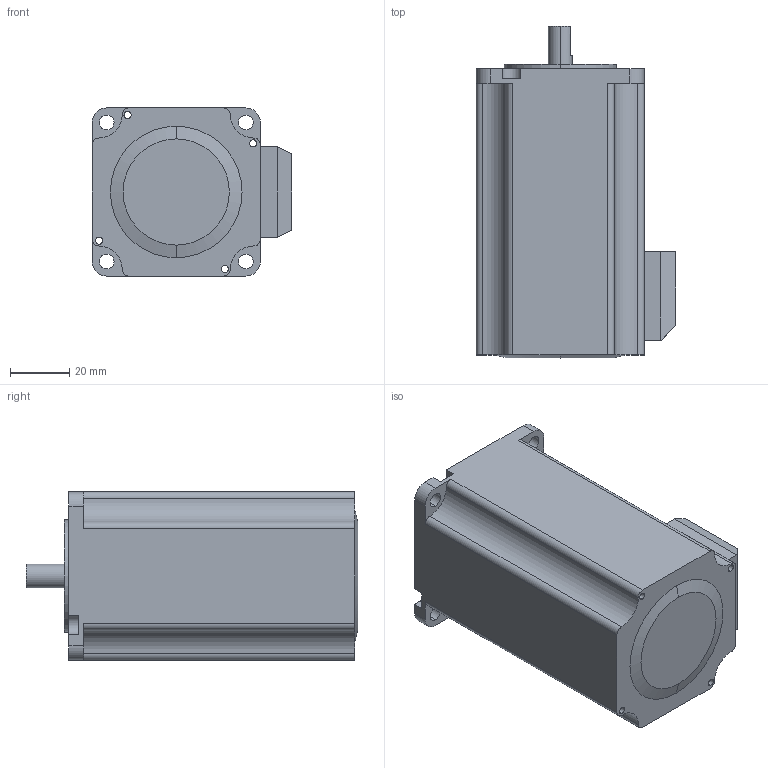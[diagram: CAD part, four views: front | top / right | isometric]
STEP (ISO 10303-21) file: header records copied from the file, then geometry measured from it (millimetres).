
FILE_DESCRIPTION (( 'STEP AP214' ), '1' );
FILE_NAME ('57A2ECZ-14.5£¨57HSM76C-D0814-032£©.STEP', '2020-11-14T01:51:53', ( 'wimxt.com' ), ( 'wimxt.com' ), 'SwSTEP 2.0', 'SolidWorks 2014', '' );
FILE_SCHEMA (( 'AUTOMOTIVE_DESIGN' ));
Length unit declared in the file: millimetre
Products named in the file (1): 57A2ECZ-14.5（57HSM76C-D0814-032）
Bounding box: 67.7 x 112.5 x 57 mm (x, y, z)
Volume: 290305.7 mm3; surface area: 31545 mm2
Topology: 1 solids, 1 shells, 84 faces, 228 edges, 152 vertices
Faces by surface type: cylinder 45, plane 37, cone 2
Entity records: 2754 total; most frequent: DIRECTION 494, CARTESIAN_POINT 465, ORIENTED_EDGE 456, EDGE_CURVE 228, AXIS2_PLACEMENT_3D 181, VERTEX_POINT 152, LINE 132, VECTOR 132
